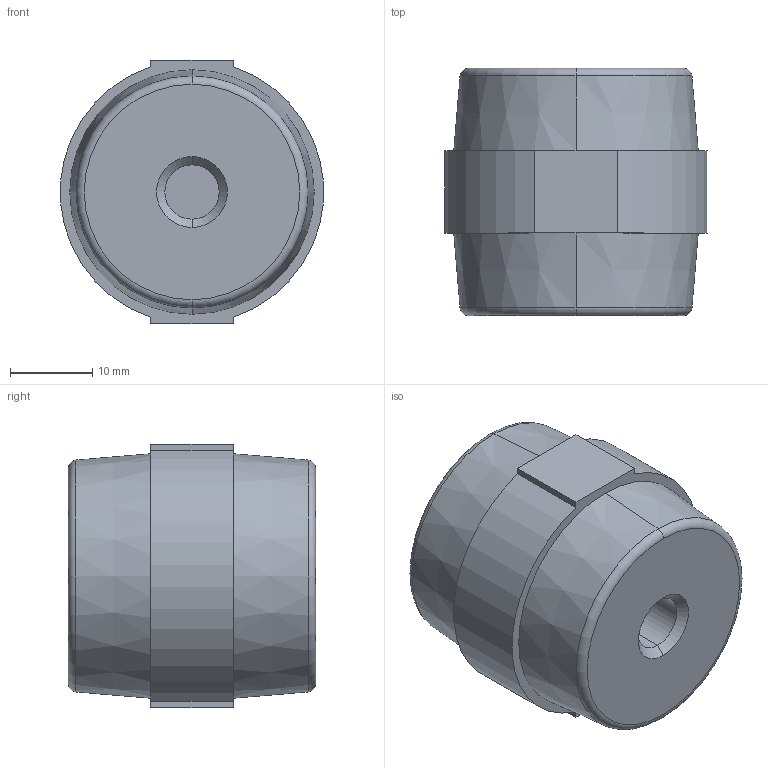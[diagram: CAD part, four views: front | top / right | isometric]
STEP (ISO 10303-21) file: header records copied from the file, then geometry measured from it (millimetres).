
FILE_DESCRIPTION (( 'STEP AP214' ), '1' );
FILE_NAME ('SM-30.STEP', '2026-01-27T09:17:07', ( '' ), ( '' ), 'SwSTEP 2.0', 'SolidWorks 2022', '' );
FILE_SCHEMA (( 'AUTOMOTIVE_DESIGN' ));
Length unit declared in the file: millimetre
Products named in the file (1): SM-30
Bounding box: 31.89 x 30 x 32 mm (x, y, z)
Volume: 20420.3 mm3; surface area: 4650.2 mm2
Topology: 1 solids, 1 shells, 30 faces, 64 edges, 40 vertices
Faces by surface type: plane 12, cone 8, cylinder 6, torus 4
Entity records: 850 total; most frequent: DIRECTION 158, CARTESIAN_POINT 135, ORIENTED_EDGE 128, EDGE_CURVE 64, AXIS2_PLACEMENT_3D 63, VERTEX_POINT 40, EDGE_LOOP 34, CIRCLE 32
